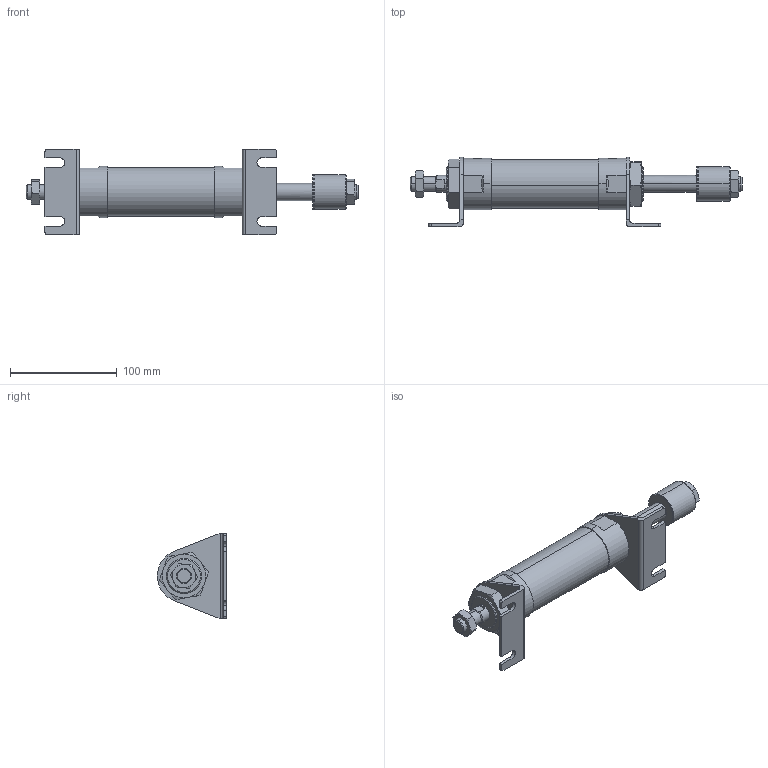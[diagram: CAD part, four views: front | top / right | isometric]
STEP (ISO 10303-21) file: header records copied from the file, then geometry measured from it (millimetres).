
FILE_DESCRIPTION (( 'STEP AP203' ), '1' );
FILE_NAME ('JGA7-40-50-L.STEP', '2016-04-20T01:59:05', ( '' ), ( '' ), 'SwSTEP 2.0', 'SolidWorks 2014', '' );
FILE_SCHEMA (( 'CONFIG_CONTROL_DESIGN' ));
Length unit declared in the file: millimetre
Products named in the file (8): J#2-40-L; JGA7-40-Turn; JGA7-40-50-L; M14x1.5-8mm; JGLH2-40B; JGA7-40A-50; 40-50; M33x2-11mm
Assembly tree (10 placements, depth 2):
  JGA7-40-50-L
    JGLH2-40B
    40-50
    JGA7-40A-50
    M14x1.5-8mm  x2
    J#2-40-L  x2
    M33x2-11mm  x2
    JGA7-40-Turn
Bounding box: 311.5 x 65 x 80 mm (x, y, z)
Volume: 378430.7 mm3; surface area: 82380.3 mm2
Topology: 10 solids, 10 shells, 225 faces, 518 edges, 318 vertices
Faces by surface type: plane 89, cylinder 64, torus 50, cone 22
Entity records: 5725 total; most frequent: CARTESIAN_POINT 1352, DIRECTION 757, ORIENTED_EDGE 690, EDGE_CURVE 345, AXIS2_PLACEMENT_3D 311, VERTEX_POINT 214, EDGE_LOOP 171, ADVANCED_FACE 154
